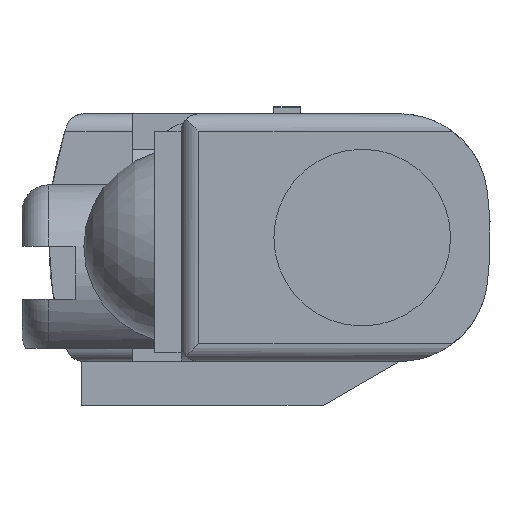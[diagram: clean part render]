
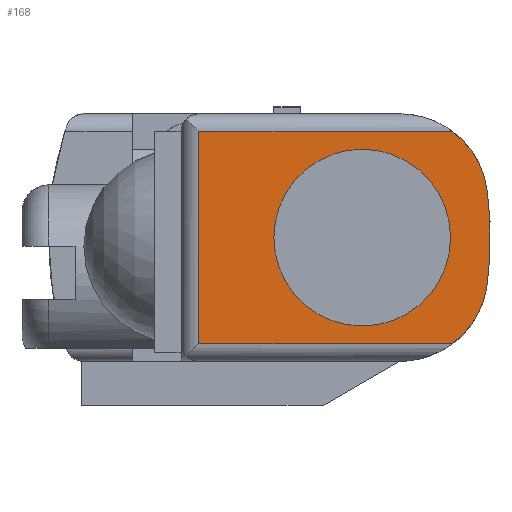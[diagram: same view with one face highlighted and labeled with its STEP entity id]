
A CAD part, left-side view. The second image highlights one B-rep face of the part: STEP entity #168.
In plain terms, the highlighted planar face has unit normal (-1, 0, 0).
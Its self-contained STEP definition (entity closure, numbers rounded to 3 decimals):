
#168 = ADVANCED_FACE( '', ( #402, #403 ), #404, .F. );
#402 = FACE_BOUND( '', #694, .T. );
#403 = FACE_OUTER_BOUND( '', #695, .T. );
#404 = PLANE( '', #696 );
#694 = EDGE_LOOP( '', ( #1635 ) );
#695 = EDGE_LOOP( '', ( #1636, #1637, #1638, #1639, #1640, #1641 ) );
#696 = AXIS2_PLACEMENT_3D( '', #1642, #1643, #1644 );
#1635 = ORIENTED_EDGE( '', *, *, #2344, .F. );
#1636 = ORIENTED_EDGE( '', *, *, #2386, .T. );
#1637 = ORIENTED_EDGE( '', *, *, #2387, .F. );
#1638 = ORIENTED_EDGE( '', *, *, #2170, .F. );
#1639 = ORIENTED_EDGE( '', *, *, #2389, .F. );
#1640 = ORIENTED_EDGE( '', *, *, #2162, .F. );
#1641 = ORIENTED_EDGE( '', *, *, #2388, .T. );
#1642 = CARTESIAN_POINT( '', ( 0., 3.156, 1.2 ) );
#1643 = DIRECTION( '', ( 1., 0., 0. ) );
#1644 = DIRECTION( '', ( 0., 0., -1. ) );
#2162 = EDGE_CURVE( '', #2743, #2737, #2745, .T. );
#2170 = EDGE_CURVE( '', #2759, #2760, #2761, .T. );
#2344 = EDGE_CURVE( '', #3057, #3057, #3058, .F. );
#2386 = EDGE_CURVE( '', #3114, #3117, #3119, .T. );
#2387 = EDGE_CURVE( '', #2760, #3117, #3120, .F. );
#2388 = EDGE_CURVE( '', #2743, #3114, #3121, .F. );
#2389 = EDGE_CURVE( '', #2737, #2759, #3122, .T. );
#2737 = VERTEX_POINT( '', #3520 );
#2743 = VERTEX_POINT( '', #3535 );
#2745 = CIRCLE( '', #3542, 1. );
#2759 = VERTEX_POINT( '', #3575 );
#2760 = VERTEX_POINT( '', #3576 );
#2761 = CIRCLE( '', #3577, 1. );
#3057 = VERTEX_POINT( '', #4009 );
#3058 = CIRCLE( '', #4010, 1. );
#3114 = VERTEX_POINT( '', #4097 );
#3117 = VERTEX_POINT( '', #4101 );
#3119 = LINE( '', #4103, #4104 );
#3120 = LINE( '', #4105, #4106 );
#3121 = LINE( '', #4107, #4108 );
#3122 = CIRCLE( '', #4109, 4. );
#3520 = CARTESIAN_POINT( '', ( 0., -1.414, 0.533 ) );
#3535 = CARTESIAN_POINT( '', ( 0., -1.023, 1.2 ) );
#3542 = AXIS2_PLACEMENT_3D( '', #4468, #4469, #4470 );
#3575 = CARTESIAN_POINT( '', ( 0., -1.414, -0.533 ) );
#3576 = CARTESIAN_POINT( '', ( 0., -1.023, -1.2 ) );
#3577 = AXIS2_PLACEMENT_3D( '', #4479, #4480, #4481 );
#4009 = CARTESIAN_POINT( '', ( 0., 0., -1. ) );
#4010 = AXIS2_PLACEMENT_3D( '', #4739, #4740, #4741 );
#4097 = CARTESIAN_POINT( '', ( 0., 1.85, 1.2 ) );
#4101 = CARTESIAN_POINT( '', ( 0., 1.85, -1.2 ) );
#4103 = CARTESIAN_POINT( '', ( 0., 1.85, 5. ) );
#4104 = VECTOR( '', #4801, 1000. );
#4105 = CARTESIAN_POINT( '', ( 0., 17.5, -1.2 ) );
#4106 = VECTOR( '', #4802, 1000. );
#4107 = CARTESIAN_POINT( '', ( 0., 17.5, 1.2 ) );
#4108 = VECTOR( '', #4803, 1000. );
#4109 = AXIS2_PLACEMENT_3D( '', #4804, #4805, #4806 );
#4468 = CARTESIAN_POINT( '', ( 0., -0.423, 0.4 ) );
#4469 = DIRECTION( '', ( 1., 0., 0. ) );
#4470 = DIRECTION( '', ( 0., 0., -1. ) );
#4479 = CARTESIAN_POINT( '', ( 0., -0.423, -0.4 ) );
#4480 = DIRECTION( '', ( 1., 0., 0. ) );
#4481 = DIRECTION( '', ( 0., 0., -1. ) );
#4739 = CARTESIAN_POINT( '', ( 0., 0., 0. ) );
#4740 = DIRECTION( '', ( 1., 0., 0. ) );
#4741 = DIRECTION( '', ( 0., 0., -1. ) );
#4801 = DIRECTION( '', ( 0., 0., -1. ) );
#4802 = DIRECTION( '', ( 0., -1., 0. ) );
#4803 = DIRECTION( '', ( 0., -1., 0. ) );
#4804 = CARTESIAN_POINT( '', ( 0., 2.55, 0. ) );
#4805 = DIRECTION( '', ( 1., 0., 0. ) );
#4806 = DIRECTION( '', ( 0., 0., -1. ) );
